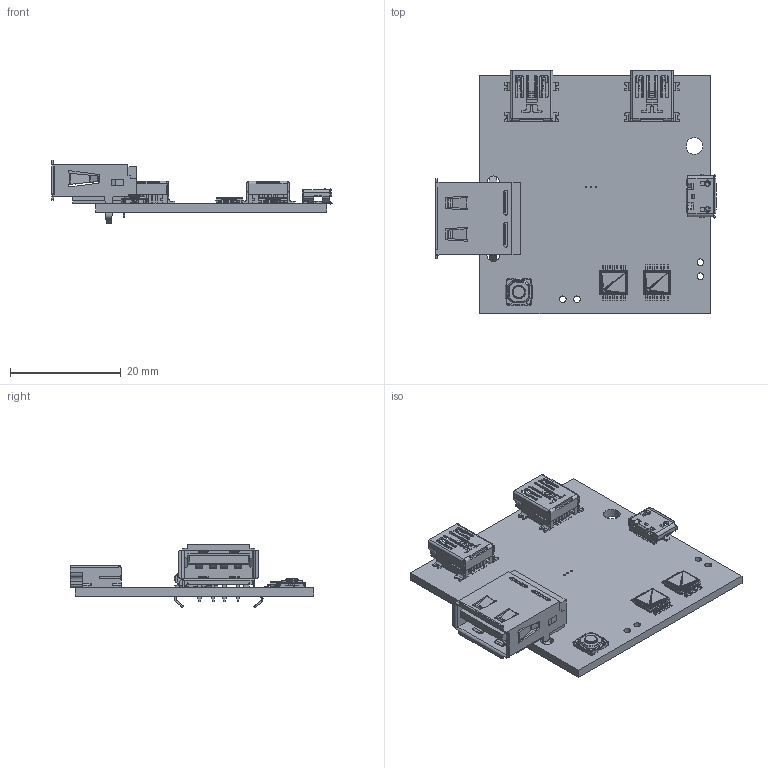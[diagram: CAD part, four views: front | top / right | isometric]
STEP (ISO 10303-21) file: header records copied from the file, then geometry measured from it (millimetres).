
FILE_DESCRIPTION(('KiCad electronic assembly'),'2;1');
FILE_NAME('YKUUS.step','2019-03-15T23:02:44',('An Author'),('A Company') ,'Open CASCADE STEP processor 6.9','KiCad to STEP converter','Unknown' );
FILE_SCHEMA(('AUTOMOTIVE_DESIGN { 1 0 10303 214 1 1 1 1 }'));
Length unit declared in the file: millimetre
Products named in the file (14): Open CASCADE STEP translator 6.9 1; EVQ-PLD_PLH_PLM_3PL_PT5_PT9-A15; SOLID; USB-Type-A; COMPOUND; USB_Mini-B_Lumberg_2486_01_Horizontal; USB_Micro-B_Molex_47346-0001; tssop_14; SHELL
Assembly tree (15 placements, depth 3):
  Open CASCADE STEP translator 6.9 1
    EVQ-PLD_PLH_PLM_3PL_PT5_PT9-A15
      SOLID
    USB-Type-A
      COMPOUND
    USB_Mini-B_Lumberg_2486_01_Horizontal  x2
      SOLID
    USB_Micro-B_Molex_47346-0001
      SOLID
    tssop_14  x2
      COMPOUND
      SHELL
      COMPOUND
    COMPOUND
Bounding box: 50.58 x 43.95 x 11.43 mm (x, y, z)
Volume: 3846.7 mm3; surface area: 7704.2 mm2
Topology: 6 solids, 36 shells, 6552 faces, 13582 edges, 6930 vertices
Faces by surface type: plane 5827, cylinder 669, bspline 46, torus 6, sphere 4
Full cylindrical faces by diameter (mm): 0.3 x3, 0.8 x4, 0.9 x4, 0.92 x4, 1.2 x4, 2.3 x2, 3 x1
Entity records: 231511 total; most frequent: CARTESIAN_POINT 52029, DIRECTION 32572, LINE 22369, VECTOR 22369, ORIENTED_EDGE 16640, PCURVE 16640, DEFINITIONAL_REPRESENTATION 16640, EDGE_CURVE 8600
